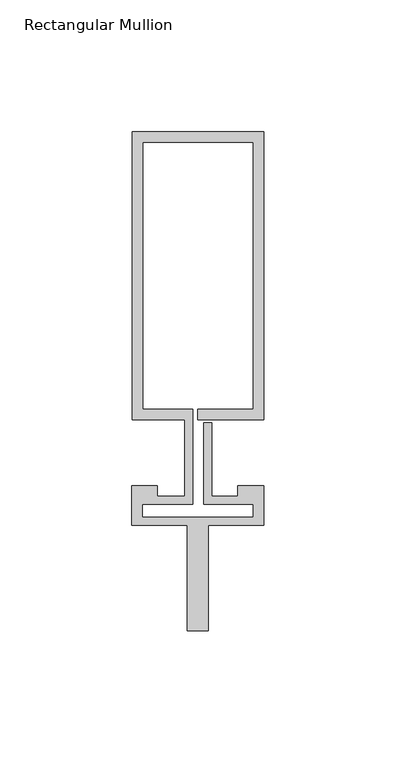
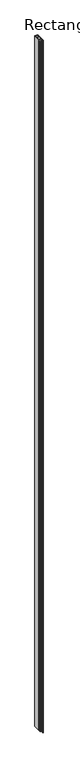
"""IFC4 building model written with IfcOpenShell, lengths in millimetres: member geometry, Rectangular Mullion : Reynaers_CW-50_Mullion-Transom_Horizontal_109.4mm_Facecap-06B."""

from ifc_helpers import new_model, si_unit, frame, origin, place, context, project, spatial, polyline, outline, extrude, source, transform, mapped, element, save


def rectangular_mullion_d826bcb7(model_context):
    return source(origin(), model_context, "Body", "SweptSolid", [
        extrude(outline(polyline([(-24.8004059, 121.9), (25.1995941, 121.9), (25.1995941, 12.5), (0.0, 12.5), (0.0, 16.5), (21.1995941, 16.5), (21.1995941, 117.9), (-20.8004059, 117.9), (-20.8004059, 16.5), (-1.9004059, 16.5), (-1.9004059, -19.5), (-20.994845, -19.5), (-20.994845, -24.4191338), (21.1995941, -24.4191338), (21.1995941, -19.5), (2.2995941, -19.5), (2.2995941, 11.5), (5.2995941, 11.5), (5.2995941, -16.5), (15.2996495, -16.5), (15.2996495, -12.5), (25.1995941, -12.5), (25.1995941, -27.5), (4.004855, -27.5), (4.004855, -67.5), (-3.995145, -67.5), (-3.995145, -27.5), (-24.994845, -27.5), (-24.994845, -12.5), (-15.2996495, -12.5), (-15.2996495, -16.5), (-4.9004059, -16.5), (-4.9004059, 12.5), (-24.8004059, 12.5), (-24.8004059, 121.9)])), frame((0.0, 0.0, -12000.0), z_axis=(0.0, 0.0, 1.0), x_axis=(1.0, 0.0, 0.0)), (0.0, 0.0, 1.0), 12000.0),
    ])


if __name__ == "__main__":
    model = new_model("IFC4")
    model_context = context("Model", 3, world=origin())
    ifc_project = project(units=[si_unit("LENGTHUNIT", "METRE", prefix="MILLI")], contexts=[model_context])
    site = spatial("IfcSite", under=ifc_project)
    building = spatial("IfcBuilding", under=site)
    placement = place(None, origin())
    rectangular_mullion_shape = rectangular_mullion_d826bcb7(model_context)
    element("IfcMember", 1, ObjectType="Rectangular Mullion : Reynaers_CW-50_Mullion-Transom_Horizontal_109.4mm_Facecap-06B", at=placement, inside=building, context=model_context, shape_type="MappedRepresentation", body=[
        mapped(rectangular_mullion_shape, transform((0.0, 0.0, 0.0), x_axis=(1.0, 0.0, 0.0), y_axis=(0.0, 1.0, 0.0), z_axis=(0.0, 0.0, 1.0))),
    ])
    save(model, "model.ifc")
